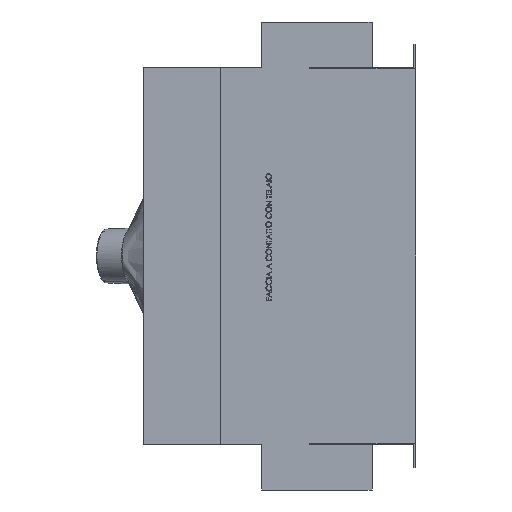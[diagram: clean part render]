
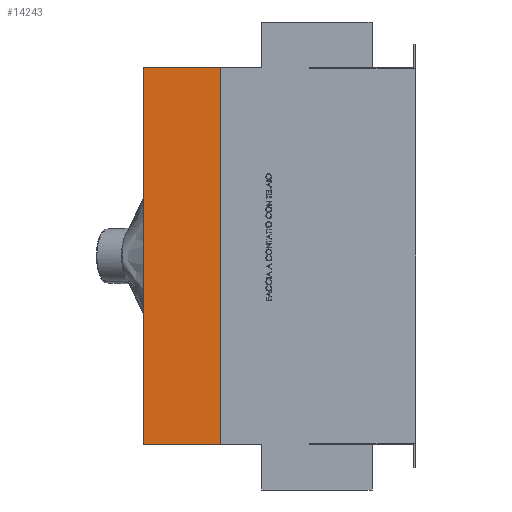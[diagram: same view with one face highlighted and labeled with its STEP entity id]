
A CAD part, left-side view. The second image highlights one B-rep face of the part: STEP entity #14243.
In plain terms, the highlighted planar face has unit normal (-1, 0, 0).
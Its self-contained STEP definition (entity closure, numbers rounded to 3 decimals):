
#87 = VECTOR ( 'NONE', #43457, 1000. ) ;
#2207 = VERTEX_POINT ( 'NONE', #50278 ) ;
#5532 = ORIENTED_EDGE ( 'NONE', *, *, #61683, .F. ) ;
#5879 = CARTESIAN_POINT ( 'NONE',  ( -120.515, 316.605, 343. ) ) ;
#11583 = LINE ( 'NONE', #5879, #49600 ) ;
#13741 = LINE ( 'NONE', #53236, #87 ) ;
#14243 = ADVANCED_FACE ( 'NONE', ( #38996 ), #39025, .F. ) ;
#14267 = DIRECTION ( 'NONE',  ( 0., 0., -1. ) ) ;
#17660 = VECTOR ( 'NONE', #63355, 1000. ) ;
#19411 = CARTESIAN_POINT ( 'NONE',  ( -120.515, 316.605, 1234.067 ) ) ;
#21140 = EDGE_CURVE ( 'NONE', #46592, #46018, #13741, .T. ) ;
#26390 = DIRECTION ( 'NONE',  ( 0., -1., 0. ) ) ;
#29064 = CARTESIAN_POINT ( 'NONE',  ( -120.515, 316.605, 1234.067 ) ) ;
#29855 = EDGE_LOOP ( 'NONE', ( #31077, #51436, #38750, #5532 ) ) ;
#30102 = CARTESIAN_POINT ( 'NONE',  ( -120.515, 316.605, -343. ) ) ;
#30791 = LINE ( 'NONE', #19411, #17660 ) ;
#31077 = ORIENTED_EDGE ( 'NONE', *, *, #47469, .F. ) ;
#31523 = CARTESIAN_POINT ( 'NONE',  ( -120.515, 176.605, -343. ) ) ;
#34305 = EDGE_CURVE ( 'NONE', #2207, #46018, #30791, .T. ) ;
#37014 = LINE ( 'NONE', #42897, #46996 ) ;
#38750 = ORIENTED_EDGE ( 'NONE', *, *, #21140, .F. ) ;
#38996 = FACE_OUTER_BOUND ( 'NONE', #29855, .T. ) ;
#39025 = PLANE ( 'NONE',  #45783 ) ;
#42897 = CARTESIAN_POINT ( 'NONE',  ( -120.515, 176.605, 1234.067 ) ) ;
#43457 = DIRECTION ( 'NONE',  ( 0., 1., 0. ) ) ;
#43964 = DIRECTION ( 'NONE',  ( 1., 0., 0. ) ) ;
#45783 = AXIS2_PLACEMENT_3D ( 'NONE', #29064, #43964, #14267 ) ;
#46018 = VERTEX_POINT ( 'NONE', #30102 ) ;
#46592 = VERTEX_POINT ( 'NONE', #31523 ) ;
#46996 = VECTOR ( 'NONE', #47813, 1000. ) ;
#47469 = EDGE_CURVE ( 'NONE', #2207, #52050, #11583, .T. ) ;
#47813 = DIRECTION ( 'NONE',  ( 0., 0., -1. ) ) ;
#49600 = VECTOR ( 'NONE', #26390, 1000. ) ;
#50278 = CARTESIAN_POINT ( 'NONE',  ( -120.515, 316.605, 343. ) ) ;
#51322 = CARTESIAN_POINT ( 'NONE',  ( -120.515, 176.605, 343. ) ) ;
#51436 = ORIENTED_EDGE ( 'NONE', *, *, #34305, .T. ) ;
#52050 = VERTEX_POINT ( 'NONE', #51322 ) ;
#53236 = CARTESIAN_POINT ( 'NONE',  ( -120.515, 316.605, -343. ) ) ;
#61683 = EDGE_CURVE ( 'NONE', #52050, #46592, #37014, .T. ) ;
#63355 = DIRECTION ( 'NONE',  ( 0., 0., -1. ) ) ;
